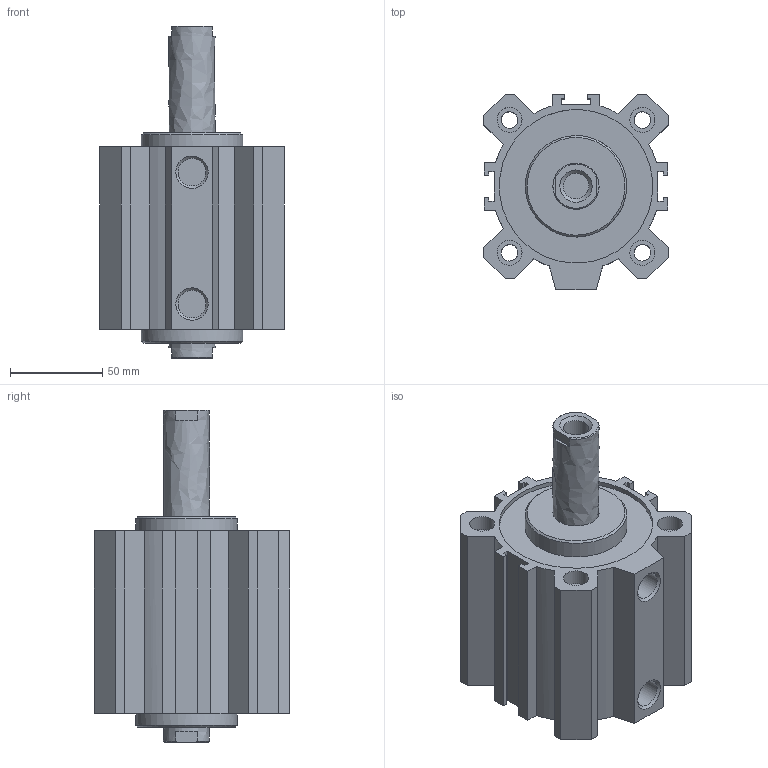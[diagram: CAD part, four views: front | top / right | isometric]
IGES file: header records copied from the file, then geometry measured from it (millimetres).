
Global section: file name: 1514_80_0050; native system: Autodesk Inventor 2014; preprocessor: unknown; author: A. Manieri; date: 20160824.142353; units: millimetre
Bounding box: 100 x 106 x 180 mm (x, y, z)
Volume: 629075.4 mm3; surface area: 144159.3 mm2
Topology: 2 solids, 2 shells, 132 faces, 346 edges, 238 vertices
Faces by surface type: bspline 132
